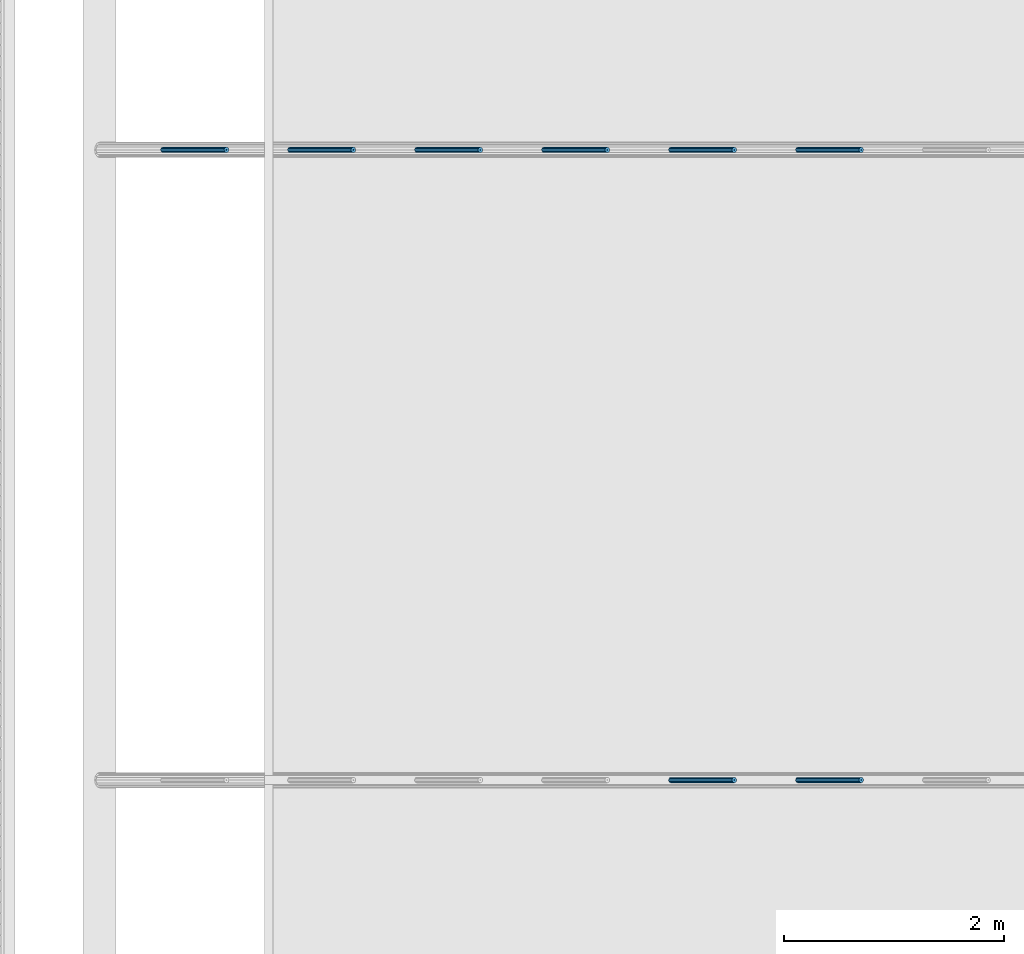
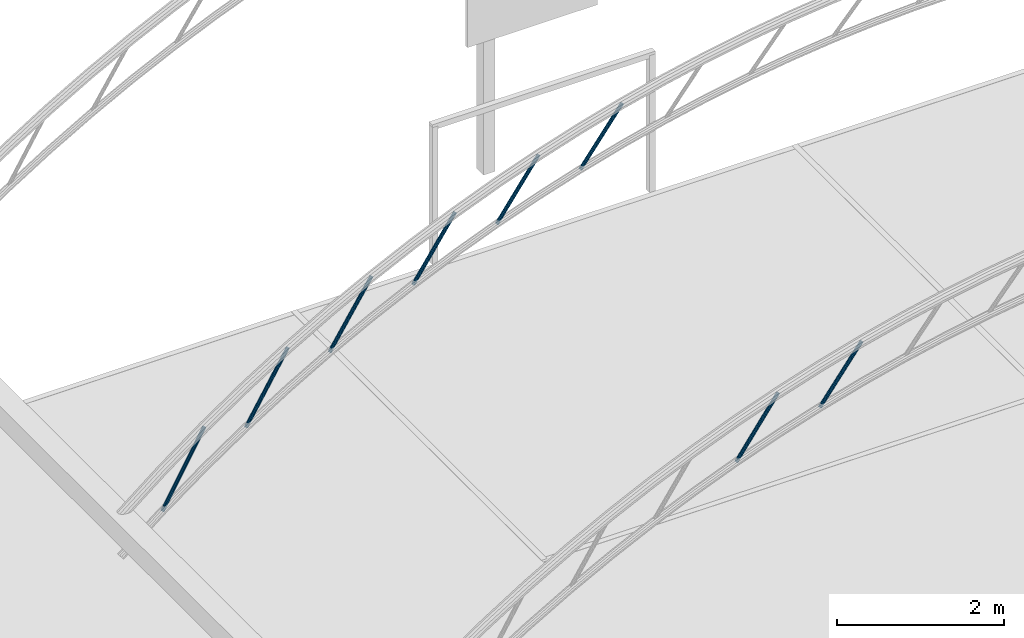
# One storey, part 13 of 90: 8 beams.
"""IFC2X3 building model written with IfcOpenShell, lengths in metres."""

import ifcopenshell
import ifcopenshell.guid

model = None  # the IFC model being written
_history = None  # IfcOwnerHistory: only IFC2X3 demands one
_inside = {}  # id of a spatial element -> (the spatial element, [elements in it])
_under = {}  # id of a project, library or spatial element -> (it, [spatial elements below it])
_declared = {}  # id of a project -> (the project, [libraries it declares])
_typed = {}  # id of a type object -> (the type object, [elements of that type])
_made_of = {}  # id of a material, layer set ... -> (it, [elements and type objects made of it])


def new_model(schema):
    """Start an empty IFC model of exactly this schema.

    Asked for "IFC4X3", IfcOpenShell would pick the latest addendum, in which some entities
    have other attributes; the version numbers below select the first issue.
    IFC2X3 requires an IfcOwnerHistory on every rooted entity: one is made here for all.
    """
    global model, _history
    if schema == "IFC4X3":
        model = ifcopenshell.file(schema_version=(4, 3, 0, 0))
    else:
        model = ifcopenshell.file(schema=schema)
    _inside.clear()
    _under.clear()
    _declared.clear()
    _typed.clear()
    _made_of.clear()
    _history = None
    if model.schema == "IFC2X3":
        org = make("IfcOrganization", Name="unknown")
        user = make(
            "IfcPersonAndOrganization",
            ThePerson=make("IfcPerson", FamilyName="unknown"),
            TheOrganization=org,
        )
        app = make(
            "IfcApplication",
            ApplicationDeveloper=org,
            Version="unknown",
            ApplicationFullName="unknown",
            ApplicationIdentifier="unknown",
        )
        _history = make(
            "IfcOwnerHistory",
            OwningUser=user,
            OwningApplication=app,
            ChangeAction="ADDED",
            CreationDate=0,
        )
    return model


def make(cls, **values):
    """One entity of the class cls with the attributes given. An attribute that is None is left unset."""
    return model.create_entity(
        cls, **{name: value for name, value in values.items() if value is not None}
    )


def rooted(cls, **values):
    """An entity with a GlobalId (a new one), such as an element, a storey or a relation."""
    return make(cls, GlobalId=ifcopenshell.guid.new(), OwnerHistory=_history, **values)


def si_unit(unit_type, name, prefix=None):
    """IfcSIUnit, for example si_unit("LENGTHUNIT", "METRE", prefix="MILLI")."""
    return make("IfcSIUnit", UnitType=unit_type, Prefix=prefix, Name=name)


def assignment(units):
    """IfcUnitAssignment: the units of a project."""
    return None if units is None else make("IfcUnitAssignment", Units=units)


def point(xyz):
    """IfcCartesianPoint."""
    return None if xyz is None else make("IfcCartesianPoint", Coordinates=xyz)


def direction(xyz):
    """IfcDirection."""
    return None if xyz is None else make("IfcDirection", DirectionRatios=xyz)


def frame(location, z_axis=None, x_axis=None):
    """IfcAxis2Placement3D, a coordinate frame: its origin and axes. An axis left out is left unset."""
    return make(
        "IfcAxis2Placement3D",
        Location=point(location),
        Axis=direction(z_axis),
        RefDirection=direction(x_axis),
    )


def origin():
    """The frame at (0, 0, 0) with its axes left unset."""
    return frame((0.0, 0.0, 0.0))


def origin_with_axes():
    """The frame at (0, 0, 0) with the z axis (0, 0, 1) and the x axis (1, 0, 0) written out."""
    return frame((0.0, 0.0, 0.0), z_axis=(0.0, 0.0, 1.0), x_axis=(1.0, 0.0, 0.0))


def place(relative_to, where):
    """IfcLocalPlacement: puts the frame where relative to a parent placement (None: the world)."""
    return make(
        "IfcLocalPlacement", PlacementRelTo=relative_to, RelativePlacement=where
    )


def context(
    kind, dimensions, precision=None, world=None, true_north=None, identifier=None
):
    """IfcGeometricRepresentationContext, for example the 3D "Model" context."""
    return make(
        "IfcGeometricRepresentationContext",
        ContextIdentifier=identifier,
        ContextType=kind,
        CoordinateSpaceDimension=dimensions,
        Precision=precision,
        WorldCoordinateSystem=world,
        TrueNorth=true_north,
    )


def subcontext(parent, identifier, kind, view, scale=None):
    """IfcGeometricRepresentationSubContext, for example "Body" below "Model"."""
    return make(
        "IfcGeometricRepresentationSubContext",
        ContextIdentifier=identifier,
        ContextType=kind,
        ParentContext=parent,
        TargetScale=scale,
        TargetView=view,
    )


def project(units=None, contexts=None):
    """IfcProject with its units and contexts."""
    return rooted(
        "IfcProject",
        Name="project",
        RepresentationContexts=contexts,
        UnitsInContext=assignment(units),
    )


def spatial(cls, under=None, at=None, **own):
    """A site, building, storey or space (cls), placed at a placement, below another one or the project."""
    s = rooted(cls, ObjectPlacement=at, **own)
    if under is not None:
        _under.setdefault(under.id(), (under, []))[1].append(s)
    return s


def faces_of(points, faces, orient=None, outer=None):
    """IfcFace entities. A face is a list of loops; a loop is a list of indices into points, from 0.

    orient and outer hold one flag for each loop. By default every Orientation is true, the
    first loop of a face is its IfcFaceOuterBound and the others are IfcFaceBound.
    """
    made = []
    for i, loops in enumerate(faces):
        bounds = []
        for j, loop in enumerate(loops):
            is_outer = j == 0 if outer is None else outer[i][j]
            bounds.append(
                make(
                    "IfcFaceOuterBound" if is_outer else "IfcFaceBound",
                    Bound=make("IfcPolyLoop", Polygon=[points[k] for k in loop]),
                    Orientation=True if orient is None else orient[i][j],
                )
            )
        made.append(make("IfcFace", Bounds=bounds))
    return made


def faceted_brep(points, faces, orient=None, outer=None, voids=None):
    """IfcFacetedBrep: a solid bounded by flat faces; with voids (closed shells), ...WithVoids."""
    shared = [point(p) for p in points]
    hull = make("IfcClosedShell", CfsFaces=faces_of(shared, faces, orient, outer))
    if voids is None:
        return make("IfcFacetedBrep", Outer=hull)
    return make(
        "IfcFacetedBrepWithVoids",
        Outer=hull,
        Voids=[
            make(cls, CfsFaces=faces_of(shared, fs, o, b)) for cls, fs, o, b in voids
        ],
    )


def shape(context_of_items, identifier, shape_type, items):
    """IfcShapeRepresentation: the items that make up one representation, for example the "Body"."""
    return make(
        "IfcShapeRepresentation",
        ContextOfItems=context_of_items,
        RepresentationIdentifier=identifier,
        RepresentationType=shape_type,
        Items=items,
    )


def made_of(thing, what):
    """Note that an element or type object is made of a material, layer set ...; save() writes the relation."""
    if what is not None:
        _made_of.setdefault(what.id(), (what, []))[1].append(thing)
    return thing


def element(
    cls,
    number,
    at=None,
    inside=None,
    cuts=None,
    type_object=None,
    material=None,
    context=None,
    identifier="Body",
    shape_type=None,
    held_by="IfcProductDefinitionShape",
    body=None,
    shapes=None,
    **own,
):
    """One element of the class cls, such as IfcWall. Its Tag is "e" and its number.

    at: its placement. inside: the storey or other place that contains it. cuts: it is an
    opening in that element (IfcRelVoidsElement). A single representation is given by context,
    identifier, shape_type and body (its items); several are given by shapes. held_by: the class
    of the entity that holds the representations. save() writes the other relations.
    """
    e = rooted(cls, Tag="e%d" % number, ObjectPlacement=at, **own)
    if body is not None:
        shapes = [shape(context, identifier, shape_type, body)]
    if shapes is not None:
        e.Representation = make(held_by, Representations=shapes)
    if inside is not None:
        _inside.setdefault(inside.id(), (inside, []))[1].append(e)
    if cuts is not None:
        rooted(
            "IfcRelVoidsElement", RelatingBuildingElement=cuts, RelatedOpeningElement=e
        )
    if type_object is not None:
        _typed.setdefault(type_object.id(), (type_object, []))[1].append(e)
    return made_of(e, material)


def aggregate(whole, parts):
    """IfcRelAggregates: a whole, such as a stair, and the parts it consists of."""
    return rooted("IfcRelAggregates", RelatingObject=whole, RelatedObjects=parts)


def save(model, path):
    """Write the relations noted so far, then the file.

    IfcRelAggregates (storeys below a building ...), IfcRelContainedInSpatialStructure (elements
    in a storey), IfcRelDefinesByType, IfcRelAssociatesMaterial and IfcRelDeclares: one each for
    every whole, place, type object, material and project.
    """
    for whole, parts in _under.values():
        aggregate(whole, parts)
    for where, things in _inside.values():
        rooted(
            "IfcRelContainedInSpatialStructure",
            RelatedElements=things,
            RelatingStructure=where,
        )
    for kind, things in _typed.values():
        rooted("IfcRelDefinesByType", RelatedObjects=things, RelatingType=kind)
    for what, things in _made_of.values():
        rooted("IfcRelAssociatesMaterial", RelatedObjects=things, RelatingMaterial=what)
    for by, libraries in _declared.values():
        rooted("IfcRelDeclares", RelatingContext=by, RelatedDefinitions=libraries)
    model.write(path)


model = new_model("IFC2X3")

# Units and contexts
model_context = context("Model", 3, precision=1e-05, world=origin_with_axes())
body_context = subcontext(model_context, "Body", "Model", "MODEL_VIEW")
ifc_project = project(units=[si_unit("LENGTHUNIT", "METRE"), si_unit("AREAUNIT", "SQUARE_METRE"), si_unit("VOLUMEUNIT", "CUBIC_METRE"), si_unit("PLANEANGLEUNIT", "RADIAN")], contexts=[model_context])

# Site, building, storey
site_placement = place(None, origin_with_axes())
site = spatial("IfcSite", under=ifc_project, at=site_placement, Name="Predio Los Mangos - Morales, San Martín", CompositionType="ELEMENT")
building_placement = place(site_placement, origin())
building = spatial("IfcBuilding", under=site, at=building_placement, Name="Hogar de Refugio Temporal", CompositionType="ELEMENT")
storey_placement = place(building_placement, origin())
storey = spatial("IfcBuildingStorey", under=building, at=storey_placement, Name="NIVEL 1 (NPT +0.00)", CompositionType="ELEMENT", Elevation=0.0)

# Beams
beam_1_placement = place(storey_placement, origin())
element("IfcBeam", 1, at=beam_1_placement, inside=storey, Name="diag", ObjectType="Viga", context=body_context, shape_type="Brep", body=[
    faceted_brep([(8.6873, 109.8217, 8.3978), (9.2648, 109.8217, 9.2047), (9.275, 109.825, 9.1974), (8.6975, 109.825, 8.3905), (8.6799, 109.8125, 8.4031), (9.2574, 109.8125, 9.21), (8.6772, 109.8, 8.405), (9.2547, 109.8, 9.2119), (8.6799, 109.7875, 8.4031), (9.2574, 109.7875, 9.21), (8.6873, 109.7784, 8.3978), (9.2648, 109.7784, 9.2047), (8.6975, 109.775, 8.3905), (9.275, 109.775, 9.1974), (8.7077, 109.7784, 8.3832), (9.2852, 109.7784, 9.1901), (8.7151, 109.7875, 8.3779), (9.2926, 109.7875, 9.1848), (8.7178, 109.8, 8.3759), (9.2953, 109.8, 9.1828), (8.7151, 109.8125, 8.3779), (9.2926, 109.8125, 9.1848), (8.7077, 109.8217, 8.3832), (9.2852, 109.8217, 9.1901), (8.6958, 109.8037, 8.3917), (8.6975, 109.8043, 8.3905), (9.275, 109.8043, 9.1974), (9.2733, 109.8037, 9.1986), (8.6945, 109.8021, 8.3927), (9.272, 109.8021, 9.1996), (8.694, 109.8, 8.393), (9.2715, 109.8, 9.1999), (8.6945, 109.7979, 8.3927), (9.272, 109.7979, 9.1996), (8.6958, 109.7963, 8.3917), (9.2733, 109.7963, 9.1986), (8.6975, 109.7957, 8.3905), (9.275, 109.7957, 9.1974), (8.6992, 109.7963, 8.3892), (9.2767, 109.7963, 9.1961), (8.7005, 109.7979, 8.3883), (9.278, 109.7979, 9.1952), (8.701, 109.8, 8.388), (9.2785, 109.8, 9.1949), (8.7005, 109.8021, 8.3883), (9.278, 109.8021, 9.1952), (8.6992, 109.8037, 8.3892), (9.2767, 109.8037, 9.1961)], [[[0, 1, 2, 3]], [[4, 5, 1, 0]], [[6, 7, 5, 4]], [[8, 9, 7, 6]], [[10, 11, 9, 8]], [[12, 13, 11, 10]], [[14, 15, 13, 12]], [[16, 17, 15, 14]], [[18, 19, 17, 16]], [[20, 21, 19, 18]], [[22, 23, 21, 20]], [[3, 2, 23, 22]], [[24, 25, 26, 27]], [[28, 24, 27, 29]], [[30, 28, 29, 31]], [[32, 30, 31, 33]], [[34, 32, 33, 35]], [[36, 34, 35, 37]], [[38, 36, 37, 39]], [[40, 38, 39, 41]], [[42, 40, 41, 43]], [[44, 42, 43, 45]], [[46, 44, 45, 47]], [[25, 46, 47, 26]], [[5, 7, 31, 29]], [[15, 17, 41, 39]], [[2, 1, 27, 26]], [[8, 6, 30, 32]], [[18, 16, 40, 42]], [[11, 13, 37, 35]], [[21, 23, 47, 45]], [[4, 0, 24, 28]], [[14, 12, 36, 38]], [[3, 22, 46, 25]], [[7, 9, 33, 31]], [[17, 19, 43, 41]], [[23, 2, 26, 47]], [[10, 8, 32, 34]], [[20, 18, 42, 44]], [[1, 5, 29, 27]], [[13, 15, 39, 37]], [[6, 4, 28, 30]], [[16, 14, 38, 40]], [[0, 3, 25, 24]], [[9, 11, 35, 33]], [[19, 21, 45, 43]], [[12, 10, 34, 36]], [[22, 20, 44, 46]]]),
])
beam_2_placement = place(storey_placement, origin())
element("IfcBeam", 2, at=beam_2_placement, inside=storey, Name="diag", ObjectType="Viga", context=body_context, shape_type="Brep", body=[
    faceted_brep([(9.8425, 109.8217, 8.79), (10.42, 109.8217, 9.5539), (10.43, 109.825, 9.5463), (9.8525, 109.825, 8.7824), (9.8352, 109.8125, 8.7955), (10.4127, 109.8125, 9.5594), (9.8326, 109.8, 8.7975), (10.4101, 109.8, 9.5614), (9.8352, 109.7875, 8.7955), (10.4127, 109.7875, 9.5594), (9.8425, 109.7784, 8.79), (10.42, 109.7784, 9.5539), (9.8525, 109.775, 8.7824), (10.43, 109.775, 9.5463), (9.8625, 109.7784, 8.7749), (10.44, 109.7784, 9.5388), (9.8698, 109.7875, 8.7694), (10.4473, 109.7875, 9.5333), (9.8724, 109.8, 8.7674), (10.4499, 109.8, 9.5313), (9.8698, 109.8125, 8.7694), (10.4473, 109.8125, 9.5333), (9.8625, 109.8217, 8.7749), (10.44, 109.8217, 9.5388), (9.8508, 109.8037, 8.7837), (9.8525, 109.8043, 8.7824), (10.43, 109.8043, 9.5463), (10.4283, 109.8037, 9.5476), (9.8495, 109.8021, 8.7847), (10.427, 109.8021, 9.5486), (9.8491, 109.8, 8.785), (10.4266, 109.8, 9.5489), (9.8495, 109.7979, 8.7847), (10.427, 109.7979, 9.5486), (9.8508, 109.7963, 8.7837), (10.4283, 109.7963, 9.5476), (9.8525, 109.7957, 8.7824), (10.43, 109.7957, 9.5463), (9.8542, 109.7963, 8.7812), (10.4317, 109.7963, 9.5451), (9.8555, 109.7979, 8.7802), (10.433, 109.7979, 9.5441), (9.8559, 109.8, 8.7799), (10.4334, 109.8, 9.5438), (9.8555, 109.8021, 8.7802), (10.433, 109.8021, 9.5441), (9.8542, 109.8037, 8.7812), (10.4317, 109.8037, 9.5451)], [[[0, 1, 2, 3]], [[4, 5, 1, 0]], [[6, 7, 5, 4]], [[8, 9, 7, 6]], [[10, 11, 9, 8]], [[12, 13, 11, 10]], [[14, 15, 13, 12]], [[16, 17, 15, 14]], [[18, 19, 17, 16]], [[20, 21, 19, 18]], [[22, 23, 21, 20]], [[3, 2, 23, 22]], [[24, 25, 26, 27]], [[28, 24, 27, 29]], [[30, 28, 29, 31]], [[32, 30, 31, 33]], [[34, 32, 33, 35]], [[36, 34, 35, 37]], [[38, 36, 37, 39]], [[40, 38, 39, 41]], [[42, 40, 41, 43]], [[44, 42, 43, 45]], [[46, 44, 45, 47]], [[25, 46, 47, 26]], [[5, 7, 31, 29]], [[15, 17, 41, 39]], [[2, 1, 27, 26]], [[8, 6, 30, 32]], [[18, 16, 40, 42]], [[11, 13, 37, 35]], [[21, 23, 47, 45]], [[4, 0, 24, 28]], [[14, 12, 36, 38]], [[3, 22, 46, 25]], [[7, 9, 33, 31]], [[17, 19, 43, 41]], [[23, 2, 26, 47]], [[10, 8, 32, 34]], [[20, 18, 42, 44]], [[1, 5, 29, 27]], [[13, 15, 39, 37]], [[6, 4, 28, 30]], [[16, 14, 38, 40]], [[0, 3, 25, 24]], [[9, 11, 35, 33]], [[19, 21, 45, 43]], [[12, 10, 34, 36]], [[22, 20, 44, 46]]]),
])
beam_3_placement = place(storey_placement, origin())
element("IfcBeam", 3, at=beam_3_placement, inside=storey, Name="diag", ObjectType="Viga", context=body_context, shape_type="Brep", body=[
    faceted_brep([(4.0666, 115.555, 5.8202), (4.6441, 115.555, 6.8469), (4.655, 115.5583, 6.8408), (4.0775, 115.5583, 5.8141), (4.0586, 115.5458, 5.8247), (4.6361, 115.5458, 6.8514), (4.0557, 115.5333, 5.8263), (4.6332, 115.5333, 6.8531), (4.0586, 115.5208, 5.8247), (4.6361, 115.5208, 6.8514), (4.0666, 115.5117, 5.8202), (4.6441, 115.5117, 6.8469), (4.0775, 115.5083, 5.8141), (4.655, 115.5083, 6.8408), (4.0884, 115.5117, 5.808), (4.6659, 115.5117, 6.8347), (4.0964, 115.5208, 5.8035), (4.6739, 115.5208, 6.8302), (4.0993, 115.5333, 5.8018), (4.6768, 115.5333, 6.8286), (4.0964, 115.5458, 5.8035), (4.6739, 115.5458, 6.8302), (4.0884, 115.555, 5.808), (4.6659, 115.555, 6.8347), (4.0756, 115.5371, 5.8151), (4.0775, 115.5376, 5.8141), (4.655, 115.5376, 6.8408), (4.6531, 115.5371, 6.8419), (4.0743, 115.5355, 5.8159), (4.6518, 115.5355, 6.8426), (4.0738, 115.5333, 5.8162), (4.6513, 115.5333, 6.8429), (4.0743, 115.5312, 5.8159), (4.6518, 115.5312, 6.8426), (4.0756, 115.5296, 5.8151), (4.6531, 115.5296, 6.8419), (4.0775, 115.529, 5.8141), (4.655, 115.529, 6.8408), (4.0794, 115.5296, 5.813), (4.6569, 115.5296, 6.8398), (4.0807, 115.5312, 5.8123), (4.6582, 115.5312, 6.839), (4.0812, 115.5333, 5.812), (4.6587, 115.5333, 6.8387), (4.0807, 115.5355, 5.8123), (4.6582, 115.5355, 6.839), (4.0794, 115.5371, 5.813), (4.6569, 115.5371, 6.8398)], [[[0, 1, 2, 3]], [[4, 5, 1, 0]], [[6, 7, 5, 4]], [[8, 9, 7, 6]], [[10, 11, 9, 8]], [[12, 13, 11, 10]], [[14, 15, 13, 12]], [[16, 17, 15, 14]], [[18, 19, 17, 16]], [[20, 21, 19, 18]], [[22, 23, 21, 20]], [[3, 2, 23, 22]], [[24, 25, 26, 27]], [[28, 24, 27, 29]], [[30, 28, 29, 31]], [[32, 30, 31, 33]], [[34, 32, 33, 35]], [[36, 34, 35, 37]], [[38, 36, 37, 39]], [[40, 38, 39, 41]], [[42, 40, 41, 43]], [[44, 42, 43, 45]], [[46, 44, 45, 47]], [[25, 46, 47, 26]], [[6, 4, 28, 30]], [[16, 14, 38, 40]], [[0, 3, 25, 24]], [[9, 11, 35, 33]], [[19, 21, 45, 43]], [[12, 10, 34, 36]], [[22, 20, 44, 46]], [[5, 7, 31, 29]], [[15, 17, 41, 39]], [[2, 1, 27, 26]], [[8, 6, 30, 32]], [[18, 16, 40, 42]], [[11, 13, 37, 35]], [[21, 23, 47, 45]], [[4, 0, 24, 28]], [[14, 12, 36, 38]], [[3, 22, 46, 25]], [[7, 9, 33, 31]], [[17, 19, 43, 41]], [[23, 2, 26, 47]], [[10, 8, 32, 34]], [[20, 18, 42, 44]], [[1, 5, 29, 27]], [[13, 15, 39, 37]]]),
])
beam_4_placement = place(storey_placement, origin())
element("IfcBeam", 4, at=beam_4_placement, inside=storey, Name="diag", ObjectType="Viga", context=body_context, shape_type="Brep", body=[
    faceted_brep([(5.2218, 115.555, 6.6398), (5.7993, 115.555, 7.6007), (5.81, 115.5583, 7.5943), (5.2325, 115.5583, 6.6333), (5.2139, 115.5458, 6.6445), (5.7914, 115.5458, 7.6055), (5.2111, 115.5333, 6.6462), (5.7886, 115.5333, 7.6072), (5.2139, 115.5208, 6.6445), (5.7914, 115.5208, 7.6055), (5.2218, 115.5117, 6.6398), (5.7993, 115.5117, 7.6007), (5.2325, 115.5083, 6.6333), (5.81, 115.5083, 7.5943), (5.2432, 115.5117, 6.6269), (5.8207, 115.5117, 7.5879), (5.2511, 115.5208, 6.6222), (5.8286, 115.5208, 7.5832), (5.2539, 115.5333, 6.6205), (5.8314, 115.5333, 7.5814), (5.2511, 115.5458, 6.6222), (5.8286, 115.5458, 7.5832), (5.2432, 115.555, 6.6269), (5.8207, 115.555, 7.5879), (5.2307, 115.5371, 6.6345), (5.2325, 115.5376, 6.6333), (5.81, 115.5376, 7.5943), (5.8082, 115.5371, 7.5954), (5.2293, 115.5355, 6.6353), (5.8068, 115.5355, 7.5962), (5.2288, 115.5333, 6.6356), (5.8063, 115.5333, 7.5965), (5.2293, 115.5312, 6.6353), (5.8068, 115.5312, 7.5962), (5.2307, 115.5296, 6.6345), (5.8082, 115.5296, 7.5954), (5.2325, 115.529, 6.6333), (5.81, 115.529, 7.5943), (5.2343, 115.5296, 6.6322), (5.8118, 115.5296, 7.5932), (5.2357, 115.5312, 6.6314), (5.8132, 115.5312, 7.5924), (5.2362, 115.5333, 6.6311), (5.8137, 115.5333, 7.5921), (5.2357, 115.5355, 6.6314), (5.8132, 115.5355, 7.5924), (5.2343, 115.5371, 6.6322), (5.8118, 115.5371, 7.5932)], [[[0, 1, 2, 3]], [[4, 5, 1, 0]], [[6, 7, 5, 4]], [[8, 9, 7, 6]], [[10, 11, 9, 8]], [[12, 13, 11, 10]], [[14, 15, 13, 12]], [[16, 17, 15, 14]], [[18, 19, 17, 16]], [[20, 21, 19, 18]], [[22, 23, 21, 20]], [[3, 2, 23, 22]], [[24, 25, 26, 27]], [[28, 24, 27, 29]], [[30, 28, 29, 31]], [[32, 30, 31, 33]], [[34, 32, 33, 35]], [[36, 34, 35, 37]], [[38, 36, 37, 39]], [[40, 38, 39, 41]], [[42, 40, 41, 43]], [[44, 42, 43, 45]], [[46, 44, 45, 47]], [[25, 46, 47, 26]], [[6, 4, 28, 30]], [[16, 14, 38, 40]], [[0, 3, 25, 24]], [[9, 11, 35, 33]], [[19, 21, 45, 43]], [[12, 10, 34, 36]], [[22, 20, 44, 46]], [[5, 7, 31, 29]], [[15, 17, 41, 39]], [[2, 1, 27, 26]], [[8, 6, 30, 32]], [[18, 16, 40, 42]], [[11, 13, 37, 35]], [[21, 23, 47, 45]], [[4, 0, 24, 28]], [[14, 12, 36, 38]], [[3, 22, 46, 25]], [[7, 9, 33, 31]], [[17, 19, 43, 41]], [[23, 2, 26, 47]], [[10, 8, 32, 34]], [[20, 18, 42, 44]], [[1, 5, 29, 27]], [[13, 15, 39, 37]]]),
])
beam_5_placement = place(storey_placement, origin())
element("IfcBeam", 5, at=beam_5_placement, inside=storey, Name="diag", ObjectType="Viga", context=body_context, shape_type="Brep", body=[
    faceted_brep([(6.377, 115.555, 7.3326), (6.9545, 115.555, 8.2366), (6.965, 115.5583, 8.2298), (6.3875, 115.5583, 7.3259), (6.3693, 115.5458, 7.3375), (6.9468, 115.5458, 8.2415), (6.3664, 115.5333, 7.3393), (6.9439, 115.5333, 8.2433), (6.3693, 115.5208, 7.3375), (6.9468, 115.5208, 8.2415), (6.377, 115.5117, 7.3326), (6.9545, 115.5117, 8.2366), (6.3875, 115.5083, 7.3259), (6.965, 115.5083, 8.2298), (6.398, 115.5117, 7.3191), (6.9755, 115.5117, 8.2231), (6.4057, 115.5208, 7.3142), (6.9832, 115.5208, 8.2182), (6.4086, 115.5333, 7.3124), (6.9861, 115.5333, 8.2164), (6.4057, 115.5458, 7.3142), (6.9832, 115.5458, 8.2182), (6.398, 115.555, 7.3191), (6.9755, 115.555, 8.2231), (6.3857, 115.5371, 7.327), (6.3875, 115.5376, 7.3259), (6.965, 115.5376, 8.2298), (6.9632, 115.5371, 8.231), (6.3844, 115.5355, 7.3279), (6.9619, 115.5355, 8.2318), (6.3839, 115.5333, 7.3282), (6.9614, 115.5333, 8.2321), (6.3844, 115.5312, 7.3279), (6.9619, 115.5312, 8.2318), (6.3857, 115.5296, 7.327), (6.9632, 115.5296, 8.231), (6.3875, 115.529, 7.3259), (6.965, 115.529, 8.2298), (6.3893, 115.5296, 7.3247), (6.9668, 115.5296, 8.2287), (6.3906, 115.5312, 7.3239), (6.9681, 115.5312, 8.2278), (6.3911, 115.5333, 7.3235), (6.9686, 115.5333, 8.2275), (6.3906, 115.5355, 7.3239), (6.9681, 115.5355, 8.2278), (6.3893, 115.5371, 7.3247), (6.9668, 115.5371, 8.2287)], [[[0, 1, 2, 3]], [[4, 5, 1, 0]], [[6, 7, 5, 4]], [[8, 9, 7, 6]], [[10, 11, 9, 8]], [[12, 13, 11, 10]], [[14, 15, 13, 12]], [[16, 17, 15, 14]], [[18, 19, 17, 16]], [[20, 21, 19, 18]], [[22, 23, 21, 20]], [[3, 2, 23, 22]], [[24, 25, 26, 27]], [[28, 24, 27, 29]], [[30, 28, 29, 31]], [[32, 30, 31, 33]], [[34, 32, 33, 35]], [[36, 34, 35, 37]], [[38, 36, 37, 39]], [[40, 38, 39, 41]], [[42, 40, 41, 43]], [[44, 42, 43, 45]], [[46, 44, 45, 47]], [[25, 46, 47, 26]], [[6, 4, 28, 30]], [[16, 14, 38, 40]], [[0, 3, 25, 24]], [[9, 11, 35, 33]], [[19, 21, 45, 43]], [[12, 10, 34, 36]], [[22, 20, 44, 46]], [[5, 7, 31, 29]], [[15, 17, 41, 39]], [[2, 1, 27, 26]], [[8, 6, 30, 32]], [[18, 16, 40, 42]], [[11, 13, 37, 35]], [[21, 23, 47, 45]], [[4, 0, 24, 28]], [[14, 12, 36, 38]], [[3, 22, 46, 25]], [[7, 9, 33, 31]], [[17, 19, 43, 41]], [[23, 2, 26, 47]], [[10, 8, 32, 34]], [[20, 18, 42, 44]], [[1, 5, 29, 27]], [[13, 15, 39, 37]]]),
])
beam_6_placement = place(storey_placement, origin())
element("IfcBeam", 6, at=beam_6_placement, inside=storey, Name="diag", ObjectType="Viga", context=body_context, shape_type="Brep", body=[
    faceted_brep([(7.5321, 115.555, 7.9148), (8.1096, 115.555, 8.7679), (8.12, 115.5583, 8.7609), (7.5425, 115.5583, 7.9077), (7.5246, 115.5458, 7.9199), (8.1021, 115.5458, 8.7731), (7.5218, 115.5333, 7.9218), (8.0993, 115.5333, 8.7749), (7.5246, 115.5208, 7.9199), (8.1021, 115.5208, 8.7731), (7.5321, 115.5117, 7.9148), (8.1096, 115.5117, 8.7679), (7.5425, 115.5083, 7.9077), (8.12, 115.5083, 8.7609), (7.5529, 115.5117, 7.9007), (8.1304, 115.5117, 8.7539), (7.5604, 115.5208, 7.8956), (8.1379, 115.5208, 8.7488), (7.5632, 115.5333, 7.8937), (8.1407, 115.5333, 8.7469), (7.5604, 115.5458, 7.8956), (8.1379, 115.5458, 8.7488), (7.5529, 115.555, 7.9007), (8.1304, 115.555, 8.7539), (7.5407, 115.5371, 7.9089), (7.5425, 115.5376, 7.9077), (8.12, 115.5376, 8.7609), (8.1182, 115.5371, 8.7621), (7.5394, 115.5355, 7.9098), (8.1169, 115.5355, 8.763), (7.5389, 115.5333, 7.9102), (8.1164, 115.5333, 8.7633), (7.5394, 115.5312, 7.9098), (8.1169, 115.5312, 8.763), (7.5407, 115.5296, 7.9089), (8.1182, 115.5296, 8.7621), (7.5425, 115.529, 7.9077), (8.12, 115.529, 8.7609), (7.5443, 115.5296, 7.9065), (8.1218, 115.5296, 8.7597), (7.5456, 115.5312, 7.9057), (8.1231, 115.5312, 8.7588), (7.5461, 115.5333, 7.9053), (8.1236, 115.5333, 8.7585), (7.5456, 115.5355, 7.9057), (8.1231, 115.5355, 8.7588), (7.5443, 115.5371, 7.9065), (8.1218, 115.5371, 8.7597)], [[[0, 1, 2, 3]], [[4, 5, 1, 0]], [[6, 7, 5, 4]], [[8, 9, 7, 6]], [[10, 11, 9, 8]], [[12, 13, 11, 10]], [[14, 15, 13, 12]], [[16, 17, 15, 14]], [[18, 19, 17, 16]], [[20, 21, 19, 18]], [[22, 23, 21, 20]], [[3, 2, 23, 22]], [[24, 25, 26, 27]], [[28, 24, 27, 29]], [[30, 28, 29, 31]], [[32, 30, 31, 33]], [[34, 32, 33, 35]], [[36, 34, 35, 37]], [[38, 36, 37, 39]], [[40, 38, 39, 41]], [[42, 40, 41, 43]], [[44, 42, 43, 45]], [[46, 44, 45, 47]], [[25, 46, 47, 26]], [[6, 4, 28, 30]], [[16, 14, 38, 40]], [[0, 3, 25, 24]], [[9, 11, 35, 33]], [[19, 21, 45, 43]], [[12, 10, 34, 36]], [[22, 20, 44, 46]], [[5, 7, 31, 29]], [[15, 17, 41, 39]], [[2, 1, 27, 26]], [[8, 6, 30, 32]], [[18, 16, 40, 42]], [[11, 13, 37, 35]], [[21, 23, 47, 45]], [[4, 0, 24, 28]], [[14, 12, 36, 38]], [[3, 22, 46, 25]], [[7, 9, 33, 31]], [[17, 19, 43, 41]], [[23, 2, 26, 47]], [[10, 8, 32, 34]], [[20, 18, 42, 44]], [[1, 5, 29, 27]], [[13, 15, 39, 37]]]),
])
beam_7_placement = place(storey_placement, origin())
element("IfcBeam", 7, at=beam_7_placement, inside=storey, Name="diag", ObjectType="Viga", context=body_context, shape_type="Brep", body=[
    faceted_brep([(8.6873, 115.555, 8.3978), (9.2648, 115.555, 9.2047), (9.275, 115.5583, 9.1974), (8.6975, 115.5583, 8.3905), (8.6799, 115.5458, 8.4031), (9.2574, 115.5458, 9.21), (8.6772, 115.5333, 8.405), (9.2547, 115.5333, 9.2119), (8.6799, 115.5208, 8.4031), (9.2574, 115.5208, 9.21), (8.6873, 115.5117, 8.3978), (9.2648, 115.5117, 9.2047), (8.6975, 115.5083, 8.3905), (9.275, 115.5083, 9.1974), (8.7077, 115.5117, 8.3832), (9.2852, 115.5117, 9.1901), (8.7151, 115.5208, 8.3779), (9.2926, 115.5208, 9.1848), (8.7178, 115.5333, 8.3759), (9.2953, 115.5333, 9.1828), (8.7151, 115.5458, 8.3779), (9.2926, 115.5458, 9.1848), (8.7077, 115.555, 8.3832), (9.2852, 115.555, 9.1901), (8.6958, 115.5371, 8.3917), (8.6975, 115.5376, 8.3905), (9.275, 115.5376, 9.1974), (9.2733, 115.5371, 9.1986), (8.6945, 115.5355, 8.3927), (9.272, 115.5355, 9.1996), (8.694, 115.5333, 8.393), (9.2715, 115.5333, 9.1999), (8.6945, 115.5312, 8.3927), (9.272, 115.5312, 9.1996), (8.6958, 115.5296, 8.3917), (9.2733, 115.5296, 9.1986), (8.6975, 115.529, 8.3905), (9.275, 115.529, 9.1974), (8.6992, 115.5296, 8.3892), (9.2767, 115.5296, 9.1961), (8.7005, 115.5312, 8.3883), (9.278, 115.5312, 9.1952), (8.701, 115.5333, 8.388), (9.2785, 115.5333, 9.1949), (8.7005, 115.5355, 8.3883), (9.278, 115.5355, 9.1952), (8.6992, 115.5371, 8.3892), (9.2767, 115.5371, 9.1961)], [[[0, 1, 2, 3]], [[4, 5, 1, 0]], [[6, 7, 5, 4]], [[8, 9, 7, 6]], [[10, 11, 9, 8]], [[12, 13, 11, 10]], [[14, 15, 13, 12]], [[16, 17, 15, 14]], [[18, 19, 17, 16]], [[20, 21, 19, 18]], [[22, 23, 21, 20]], [[3, 2, 23, 22]], [[24, 25, 26, 27]], [[28, 24, 27, 29]], [[30, 28, 29, 31]], [[32, 30, 31, 33]], [[34, 32, 33, 35]], [[36, 34, 35, 37]], [[38, 36, 37, 39]], [[40, 38, 39, 41]], [[42, 40, 41, 43]], [[44, 42, 43, 45]], [[46, 44, 45, 47]], [[25, 46, 47, 26]], [[7, 9, 33, 31]], [[17, 19, 43, 41]], [[23, 2, 26, 47]], [[10, 8, 32, 34]], [[20, 18, 42, 44]], [[1, 5, 29, 27]], [[13, 15, 39, 37]], [[6, 4, 28, 30]], [[16, 14, 38, 40]], [[0, 3, 25, 24]], [[9, 11, 35, 33]], [[19, 21, 45, 43]], [[12, 10, 34, 36]], [[22, 20, 44, 46]], [[5, 7, 31, 29]], [[15, 17, 41, 39]], [[2, 1, 27, 26]], [[8, 6, 30, 32]], [[18, 16, 40, 42]], [[11, 13, 37, 35]], [[21, 23, 47, 45]], [[4, 0, 24, 28]], [[14, 12, 36, 38]], [[3, 22, 46, 25]]]),
])
beam_8_placement = place(storey_placement, origin())
element("IfcBeam", 8, at=beam_8_placement, inside=storey, Name="diag", ObjectType="Viga", context=body_context, shape_type="Brep", body=[
    faceted_brep([(9.8425, 115.555, 8.79), (10.42, 115.555, 9.5539), (10.43, 115.5583, 9.5463), (9.8525, 115.5583, 8.7824), (9.8352, 115.5458, 8.7955), (10.4127, 115.5458, 9.5594), (9.8326, 115.5333, 8.7975), (10.4101, 115.5333, 9.5614), (9.8352, 115.5208, 8.7955), (10.4127, 115.5208, 9.5594), (9.8425, 115.5117, 8.79), (10.42, 115.5117, 9.5539), (9.8525, 115.5083, 8.7824), (10.43, 115.5083, 9.5463), (9.8625, 115.5117, 8.7749), (10.44, 115.5117, 9.5388), (9.8698, 115.5208, 8.7694), (10.4473, 115.5208, 9.5333), (9.8724, 115.5333, 8.7674), (10.4499, 115.5333, 9.5313), (9.8698, 115.5458, 8.7694), (10.4473, 115.5458, 9.5333), (9.8625, 115.555, 8.7749), (10.44, 115.555, 9.5388), (9.8508, 115.5371, 8.7837), (9.8525, 115.5376, 8.7824), (10.43, 115.5376, 9.5463), (10.4283, 115.5371, 9.5476), (9.8495, 115.5355, 8.7847), (10.427, 115.5355, 9.5486), (9.8491, 115.5333, 8.785), (10.4266, 115.5333, 9.5489), (9.8495, 115.5312, 8.7847), (10.427, 115.5312, 9.5486), (9.8508, 115.5296, 8.7837), (10.4283, 115.5296, 9.5476), (9.8525, 115.529, 8.7824), (10.43, 115.529, 9.5463), (9.8542, 115.5296, 8.7812), (10.4317, 115.5296, 9.5451), (9.8555, 115.5312, 8.7802), (10.433, 115.5312, 9.5441), (9.8559, 115.5333, 8.7799), (10.4334, 115.5333, 9.5438), (9.8555, 115.5355, 8.7802), (10.433, 115.5355, 9.5441), (9.8542, 115.5371, 8.7812), (10.4317, 115.5371, 9.5451)], [[[0, 1, 2, 3]], [[4, 5, 1, 0]], [[6, 7, 5, 4]], [[8, 9, 7, 6]], [[10, 11, 9, 8]], [[12, 13, 11, 10]], [[14, 15, 13, 12]], [[16, 17, 15, 14]], [[18, 19, 17, 16]], [[20, 21, 19, 18]], [[22, 23, 21, 20]], [[3, 2, 23, 22]], [[24, 25, 26, 27]], [[28, 24, 27, 29]], [[30, 28, 29, 31]], [[32, 30, 31, 33]], [[34, 32, 33, 35]], [[36, 34, 35, 37]], [[38, 36, 37, 39]], [[40, 38, 39, 41]], [[42, 40, 41, 43]], [[44, 42, 43, 45]], [[46, 44, 45, 47]], [[25, 46, 47, 26]], [[8, 6, 30, 32]], [[18, 16, 40, 42]], [[11, 13, 37, 35]], [[21, 23, 47, 45]], [[4, 0, 24, 28]], [[14, 12, 36, 38]], [[3, 22, 46, 25]], [[7, 9, 33, 31]], [[17, 19, 43, 41]], [[23, 2, 26, 47]], [[10, 8, 32, 34]], [[20, 18, 42, 44]], [[1, 5, 29, 27]], [[13, 15, 39, 37]], [[6, 4, 28, 30]], [[16, 14, 38, 40]], [[0, 3, 25, 24]], [[9, 11, 35, 33]], [[19, 21, 45, 43]], [[12, 10, 34, 36]], [[22, 20, 44, 46]], [[5, 7, 31, 29]], [[15, 17, 41, 39]], [[2, 1, 27, 26]]]),
])

save(model, "model.ifc")
